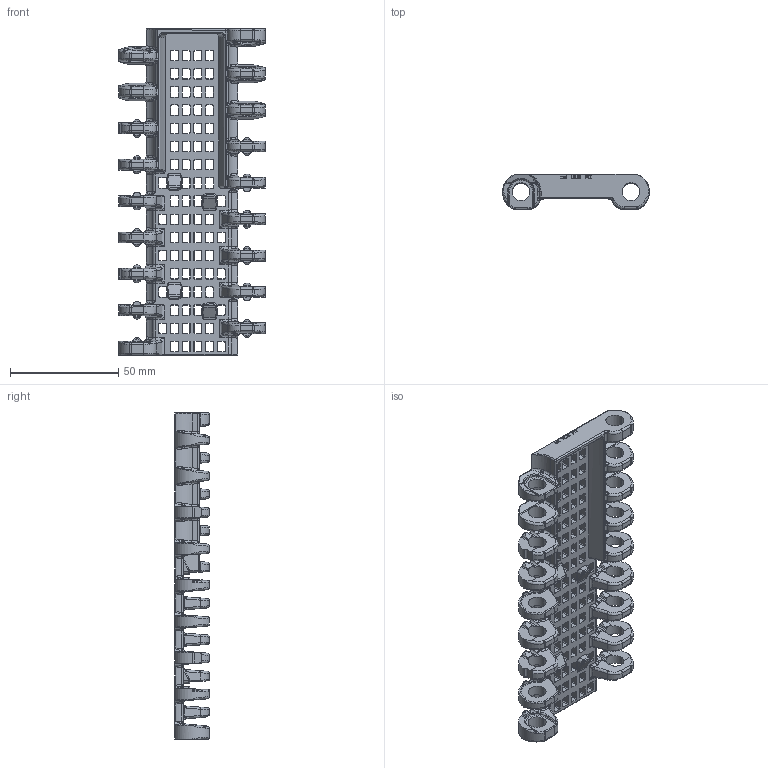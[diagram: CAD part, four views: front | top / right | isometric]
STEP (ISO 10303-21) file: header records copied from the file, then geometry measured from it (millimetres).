
FILE_DESCRIPTION((''),'2;1');
FILE_NAME('P1298','2016-11-21T',('JAS'),(''),'CREO PARAMETRIC BY PTC INC, 2016260','CREO PARAMETRIC BY PTC INC, 2016260','');
FILE_SCHEMA(('AUTOMOTIVE_DESIGN { 1 0 10303 214 1 1 1 1 }'));
Length unit declared in the file: millimetre
Products named in the file (1): P1298
Bounding box: 67.8 x 16 x 151 mm (x, y, z)
Volume: 39604.2 mm3; surface area: 30038.2 mm2
Topology: 1 solids, 1 shells, 2232 faces, 6025 edges, 3787 vertices
Faces by surface type: plane 748, bspline 617, cylinder 545, cone 280, torus 28, sphere 14
Entity records: 174659 total; most frequent: CARTESIAN_POINT 104693, ORIENTED_EDGE 12050, DIRECTION 9065, PRESENTATION_STYLE_ASSIGNMENT 6026, STYLED_ITEM 6026, CURVE_STYLE 6025, EDGE_CURVE 6025, VERTEX_POINT 3787
